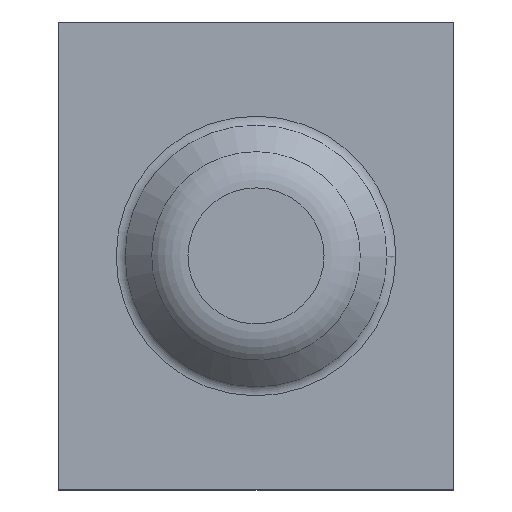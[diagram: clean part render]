
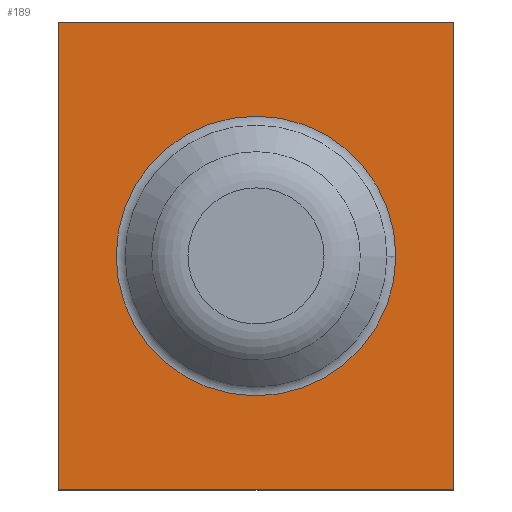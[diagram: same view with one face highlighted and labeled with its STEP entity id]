
A CAD part, top view. The second image highlights one B-rep face of the part: STEP entity #189.
In plain terms, the highlighted planar face has unit normal (0, 0, 1).
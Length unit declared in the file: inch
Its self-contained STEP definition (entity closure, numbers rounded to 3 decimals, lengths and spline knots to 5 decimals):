
#26=CARTESIAN_POINT('',(-5.18244,2.839,20.69216));
#27=VERTEX_POINT('',#26);
#42=CARTESIAN_POINT('',(-5.18244,1.961,20.69216));
#43=VERTEX_POINT('',#42);
#50=CARTESIAN_POINT('',(-5.18244,3.26723,20.69216));
#51=DIRECTION('',(0.,-1.,0.));
#52=VECTOR('',#51,1.);
#53=LINE('',#50,#52);
#54=EDGE_CURVE('',#27,#43,#53,.T.);
#73=CARTESIAN_POINT('',(-4.44244,1.961,20.69216));
#74=VERTEX_POINT('',#73);
#81=CARTESIAN_POINT('',(9.5285,1.961,20.69216));
#82=DIRECTION('',(1.,0.,0.));
#83=VECTOR('',#82,1.);
#84=LINE('',#81,#83);
#85=EDGE_CURVE('',#43,#74,#84,.T.);
#135=CARTESIAN_POINT('',(-4.44244,2.839,20.69216));
#136=VERTEX_POINT('',#135);
#137=CARTESIAN_POINT('',(-4.47344,2.839,20.69216));
#138=DIRECTION('',(-1.,0.,0.));
#139=VECTOR('',#138,0.723);
#140=LINE('',#137,#139);
#141=EDGE_CURVE('',#136,#27,#140,.T.);
#158=ORIENTED_EDGE('',*,*,#54,.T.);
#159=ORIENTED_EDGE('',*,*,#85,.T.);
#160=CARTESIAN_POINT('',(-4.44244,1.031,20.69216));
#161=DIRECTION('',(0.,1.,0.));
#162=VECTOR('',#161,1.777);
#163=LINE('',#160,#162);
#164=EDGE_CURVE('',#74,#136,#163,.T.);
#165=ORIENTED_EDGE('',*,*,#164,.T.);
#166=ORIENTED_EDGE('',*,*,#141,.T.);
#167=EDGE_LOOP('',(#158,#159,#165,#166));
#168=FACE_OUTER_BOUND('',#167,.T.);
#169=CARTESIAN_POINT('',(-4.55009,2.4,20.69216));
#170=VERTEX_POINT('',#169);
#171=CARTESIAN_POINT('',(-4.55011,2.39704,20.69216));
#172=VERTEX_POINT('',#171);
#173=CARTESIAN_POINT('',(-4.81244,2.4,20.69216));
#174=DIRECTION('',(0.,0.,-1.));
#175=DIRECTION('',(-1.,0.,0.));
#176=AXIS2_PLACEMENT_3D('',#173,#174,#175);
#177=CIRCLE('',#176,0.26235);
#178=EDGE_CURVE('',#170,#172,#177,.T.);
#179=ORIENTED_EDGE('',*,*,#178,.T.);
#180=EDGE_CURVE('',#172,#170,#177,.T.);
#181=ORIENTED_EDGE('',*,*,#180,.T.);
#182=EDGE_LOOP('',(#179,#181));
#183=FACE_BOUND('',#182,.T.);
#184=CARTESIAN_POINT('',(-5.24244,2.18703,20.69216));
#185=DIRECTION('',(0.,0.,1.));
#186=DIRECTION('',(0.,-1.,0.));
#187=AXIS2_PLACEMENT_3D('',#184,#185,#186);
#188=PLANE('',#187);
#189=ADVANCED_FACE('',(#168,#183),#188,.T.);
